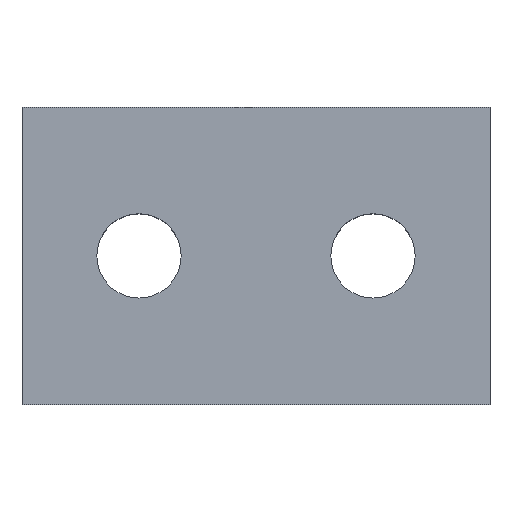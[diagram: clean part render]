
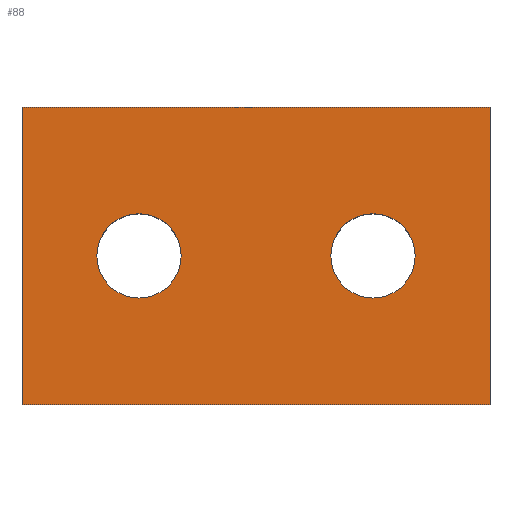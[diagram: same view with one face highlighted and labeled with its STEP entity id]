
A CAD part, top view. The second image highlights one B-rep face of the part: STEP entity #88.
In plain terms, the highlighted planar face has unit normal (0, 0, 1).
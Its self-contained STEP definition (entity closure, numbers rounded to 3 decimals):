
#24 = VERTEX_POINT('',#25);
#25 = CARTESIAN_POINT('',(20.,85.65,36.5));
#40 = VERTEX_POINT('',#41);
#41 = CARTESIAN_POINT('',(20.,98.35,36.5));
#47 = EDGE_CURVE('',#24,#40,#48,.T.);
#48 = LINE('',#49,#50);
#49 = CARTESIAN_POINT('',(20.,85.65,36.5));
#50 = VECTOR('',#51,1.);
#51 = DIRECTION('',(0.,1.,0.));
#70 = EDGE_CURVE('',#24,#71,#73,.T.);
#71 = VERTEX_POINT('',#72);
#72 = CARTESIAN_POINT('',(40.,85.65,36.5));
#73 = LINE('',#74,#75);
#74 = CARTESIAN_POINT('',(20.,85.65,36.5));
#75 = VECTOR('',#76,1.);
#76 = DIRECTION('',(1.,0.,0.));
#88 = ADVANCED_FACE('',(#89,#107,#118),#129,.T.);
#89 = FACE_BOUND('',#90,.T.);
#90 = EDGE_LOOP('',(#91,#92,#93,#101));
#91 = ORIENTED_EDGE('',*,*,#47,.F.);
#92 = ORIENTED_EDGE('',*,*,#70,.T.);
#93 = ORIENTED_EDGE('',*,*,#94,.T.);
#94 = EDGE_CURVE('',#71,#95,#97,.T.);
#95 = VERTEX_POINT('',#96);
#96 = CARTESIAN_POINT('',(40.,98.35,36.5));
#97 = LINE('',#98,#99);
#98 = CARTESIAN_POINT('',(40.,85.65,36.5));
#99 = VECTOR('',#100,1.);
#100 = DIRECTION('',(0.,1.,0.));
#101 = ORIENTED_EDGE('',*,*,#102,.F.);
#102 = EDGE_CURVE('',#40,#95,#103,.T.);
#103 = LINE('',#104,#105);
#104 = CARTESIAN_POINT('',(20.,98.35,36.5));
#105 = VECTOR('',#106,1.);
#106 = DIRECTION('',(1.,0.,0.));
#107 = FACE_BOUND('',#108,.T.);
#108 = EDGE_LOOP('',(#109));
#109 = ORIENTED_EDGE('',*,*,#110,.F.);
#110 = EDGE_CURVE('',#111,#111,#113,.T.);
#111 = VERTEX_POINT('',#112);
#112 = CARTESIAN_POINT('',(26.8,92.,36.5));
#113 = CIRCLE('',#114,1.8);
#114 = AXIS2_PLACEMENT_3D('',#115,#116,#117);
#115 = CARTESIAN_POINT('',(25.,92.,36.5));
#116 = DIRECTION('',(0.,0.,1.));
#117 = DIRECTION('',(1.,0.,0.));
#118 = FACE_BOUND('',#119,.T.);
#119 = EDGE_LOOP('',(#120));
#120 = ORIENTED_EDGE('',*,*,#121,.F.);
#121 = EDGE_CURVE('',#122,#122,#124,.T.);
#122 = VERTEX_POINT('',#123);
#123 = CARTESIAN_POINT('',(36.8,92.,36.5));
#124 = CIRCLE('',#125,1.8);
#125 = AXIS2_PLACEMENT_3D('',#126,#127,#128);
#126 = CARTESIAN_POINT('',(35.,92.,36.5));
#127 = DIRECTION('',(0.,0.,1.));
#128 = DIRECTION('',(1.,0.,0.));
#129 = PLANE('',#130);
#130 = AXIS2_PLACEMENT_3D('',#131,#132,#133);
#131 = CARTESIAN_POINT('',(20.,85.65,36.5));
#132 = DIRECTION('',(0.,0.,1.));
#133 = DIRECTION('',(1.,0.,0.));
